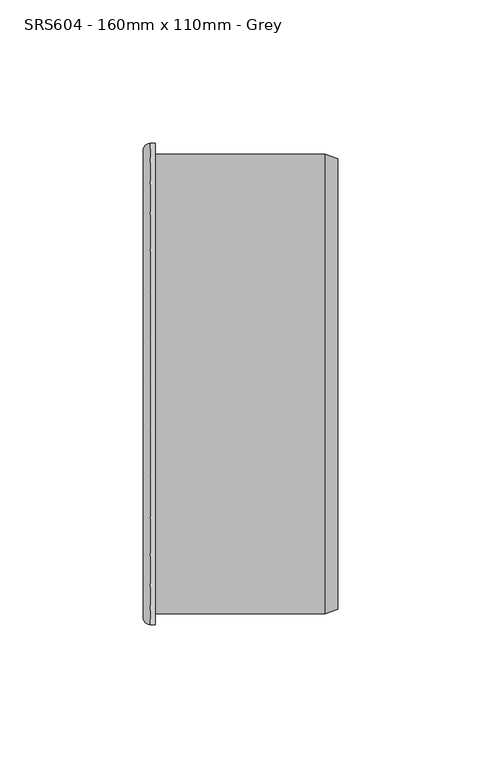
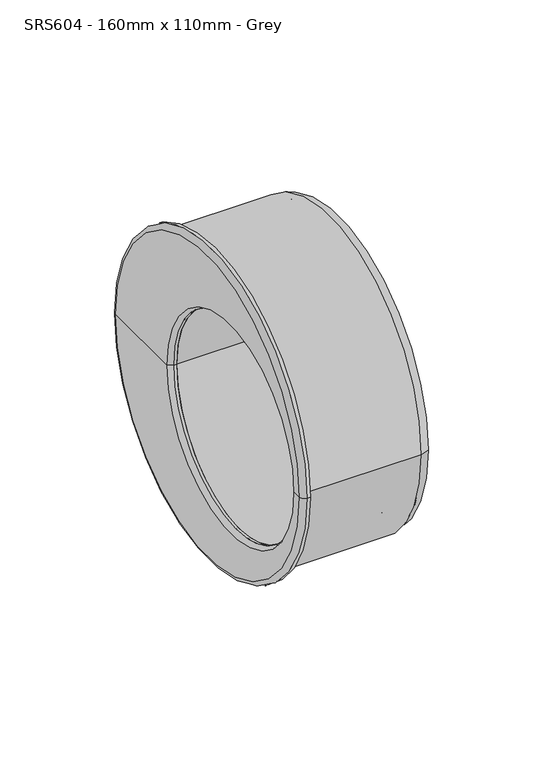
"""IFC4 building model written with IfcOpenShell, lengths in millimetres: pipe fitting geometry, MarleyPlumbingAndDrainage_PipeFitting_EccentricReducer_SRS604 : SRS604 - 160mm x 110mm - Grey."""

from ifc_helpers import new_model, si_unit, point, frame, origin, place, context, project, spatial, polyline, circle_curve, ellipse_curve, trimmed, source, transform, mapped, element, save
from ifc_brep_helpers import plane_surface, cylinder_surface, revolved_surface, advanced_brep


def srs604_160mm_x_110mm_grey_bcae88a4(model_context):
    return source(origin(), model_context, "Body", "AdvancedBrep", [
        advanced_brep(
        [(-48.7253818, 81.4690728, 0.0), (-48.7253818, -81.4690728, 0.0), (-48.7253818, -77.0932935, 0.0), (-48.7253818, 36.0932935, 0.0), (-46.2253818, 83.9690728, 0.0), (-46.2253818, -83.9690728, 0.0), (-44.4753818, 84.0, 0.0), (-44.4753818, -84.0, 0.0), (-44.4753818, 34.6943705, 0.0), (-44.4753818, -75.6943705, 0.0), (-45.7253818, 34.6943705, 0.0), (-45.7253818, -75.6943705, 0.0)],
        [
            (0, 1, circle_curve(frame((-48.7253818, 0.0, 0.0), z_axis=(-1.0, 0.0, 0.0), x_axis=(0.0, -1.0, 0.0)), 81.4690728)),
            (1, 2),
            (2, 3, circle_curve(frame((-48.7253818, -20.5, 0.0), z_axis=(1.0, 0.0, 0.0), x_axis=(0.0, 1.0, 0.0)), 56.5932935)),
            (3, 0),
            (1, 0, circle_curve(frame((-48.7253818, 0.0, 0.0), z_axis=(-1.0, 0.0, 0.0), x_axis=(0.0, -1.0, 0.0)), 81.4690728)),
            (3, 2, circle_curve(frame((-48.7253818, -20.5, 0.0), z_axis=(1.0, 0.0, 0.0), x_axis=(0.0, 1.0, 0.0)), 56.5932935)),
            (0, 4, circle_curve(frame((-46.2253818, 81.4690728, 0.0), z_axis=(0.0, 0.0, -1.0), x_axis=(1.0, 0.0, 0.0)), 2.5)),
            (4, 5, circle_curve(frame((-46.2253818, 0.0, 0.0), z_axis=(-1.0, 0.0, 0.0), x_axis=(0.0, -1.0, 0.0)), 83.9690728)),
            (5, 1, circle_curve(frame((-46.2253818, -81.4690728, 0.0), z_axis=(0.0, 0.0, -1.0), x_axis=(1.0, 0.0, 0.0)), 2.5)),
            (5, 4, circle_curve(frame((-46.2253818, 0.0, 0.0), z_axis=(-1.0, 0.0, 0.0), x_axis=(0.0, -1.0, 0.0)), 83.9690728)),
            (4, 6),
            (6, 7, circle_curve(frame((-44.4753818, 0.0, 0.0), z_axis=(-1.0, 0.0, 0.0), x_axis=(0.0, -1.0, 0.0)), 84.0)),
            (7, 5),
            (7, 6, circle_curve(frame((-44.4753818, 0.0, 0.0), z_axis=(-1.0, 0.0, 0.0), x_axis=(0.0, -1.0, 0.0)), 84.0)),
            (6, 8),
            (8, 9, circle_curve(frame((-44.4753818, -20.5, 0.0), z_axis=(-1.0, 0.0, 0.0), x_axis=(0.0, 1.0, 0.0)), 55.1943705)),
            (9, 7),
            (9, 8, circle_curve(frame((-44.4753818, -20.5, 0.0), z_axis=(-1.0, 0.0, 0.0), x_axis=(0.0, 1.0, 0.0)), 55.1943705)),
            (10, 11, circle_curve(frame((-45.7253818, -20.5, 0.0), z_axis=(-1.0, 0.0, 0.0), x_axis=(0.0, 1.0, 0.0)), 55.1943705)),
            (11, 9),
            (8, 10),
            (11, 10, circle_curve(frame((-45.7253818, -20.5, 0.0), z_axis=(-1.0, 0.0, 0.0), x_axis=(0.0, 1.0, 0.0)), 55.1943705)),
            (10, 3),
            (2, 11),
        ],
        [
            plane_surface(frame((-48.7253818, 0.0, 0.0), z_axis=(-1.0, 0.0, 0.0), x_axis=(0.0, -1.0, 0.0))),
            revolved_surface(trimmed(ellipse_curve(frame((-46.2253818, -81.4690728, 0.0), z_axis=(0.0, 0.0, 1.0), x_axis=(1.0, 0.0, 0.0)), 2.5, 2.5), [point((-48.7253818, -81.4690728, 0.0))], [point((-46.2253818, -83.9690728, 0.0))], True, "CARTESIAN"), (-63.7253818, 0.0, 0.0), (1.0, 0.0, 0.0)),
            cylinder_surface(frame((-63.7253818, 0.0, 0.0), z_axis=(1.0, 0.0, 0.0), x_axis=(0.0, -1.0, 0.0)), 84.0),
            plane_surface(frame((-44.4753818, 0.0, 0.0), z_axis=(1.0, 0.0, 0.0), x_axis=(0.0, -1.0, 0.0))),
            revolved_surface(polyline([(-45.72538179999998, 34.6943705, 0.0), (-44.47538179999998, 34.6943705, 0.0)]), (380.0794568, -20.5, 0.0), (-1.0, 0.0, 0.0)),
            revolved_surface(polyline([(-59.208004, 40.9814205, 0.0), (-45.7253818, 34.6943705, 0.0)]), (380.0794568, -20.5, 0.0), (-1.0, 0.0, 0.0)),
        ],
        [
            (0, [[1, 2, 3, 4]]),
            (0, [[5, -4, 6, -2]]),
            (1, [[-1, 7, 8, 9]]),
            (1, [[-5, -9, 10, -7]]),
            (2, [[-8, 11, 12, 13]]),
            (2, [[-10, -13, 14, -11]]),
            (3, [[-12, 15, 16, 17]]),
            (3, [[-14, -17, 18, -15]]),
            (4, [[19, 20, -16, 21]]),
            (4, [[22, -21, -18, -20]]),
            (5, [[-19, 23, -3, 24]]),
            (5, [[-22, -24, -6, -23]]),
        ],
    ),
        advanced_brep(
        [(-44.4753818, -75.3501883, 0.0), (-44.4753818, 75.3501883, 0.0), (-44.4753818, 80.1447925, 0.0), (-44.4753818, -80.1447925, 0.0), (19.0746182, -75.3501883, 0.0), (19.0746182, 75.3501883, 0.0), (19.0746182, -78.573997, 0.0), (19.0746182, 78.573997, 0.0), (14.7588928, -80.1447925, 0.0), (14.7588928, 80.1447925, 0.0)],
        [
            (0, 1, circle_curve(frame((-44.4753818, 0.0, 0.0), z_axis=(1.0, 0.0, 0.0), x_axis=(0.0, 1.0, 0.0)), 75.3501883)),
            (1, 2),
            (2, 3, circle_curve(frame((-44.4753818, 0.0, 0.0), z_axis=(-1.0, 0.0, 0.0), x_axis=(0.0, 1.0, 0.0)), 80.1447925)),
            (3, 0),
            (1, 0, circle_curve(frame((-44.4753818, 0.0, 0.0), z_axis=(1.0, 0.0, 0.0), x_axis=(0.0, 1.0, 0.0)), 75.3501883)),
            (3, 2, circle_curve(frame((-44.4753818, 0.0, 0.0), z_axis=(-1.0, 0.0, 0.0), x_axis=(0.0, 1.0, 0.0)), 80.1447925)),
            (4, 5, circle_curve(frame((19.0746182, 0.0, 0.0), z_axis=(1.0, 0.0, 0.0), x_axis=(0.0, 1.0, 0.0)), 75.3501883)),
            (5, 1),
            (0, 4),
            (5, 4, circle_curve(frame((19.0746182, 0.0, 0.0), z_axis=(1.0, 0.0, 0.0), x_axis=(0.0, 1.0, 0.0)), 75.3501883)),
            (6, 7, circle_curve(frame((19.0746182, 0.0, 0.0), z_axis=(1.0, 0.0, 0.0), x_axis=(0.0, 1.0, 0.0)), 78.573997)),
            (7, 5),
            (4, 6),
            (7, 6, circle_curve(frame((19.0746182, 0.0, 0.0), z_axis=(1.0, 0.0, 0.0), x_axis=(0.0, 1.0, 0.0)), 78.573997)),
            (8, 9, circle_curve(frame((14.7588928, 0.0, 0.0), z_axis=(1.0, 0.0, 0.0), x_axis=(0.0, 1.0, 0.0)), 80.1447925)),
            (9, 7),
            (6, 8),
            (9, 8, circle_curve(frame((14.7588928, 0.0, 0.0), z_axis=(1.0, 0.0, 0.0), x_axis=(0.0, 1.0, 0.0)), 80.1447925)),
            (2, 9),
            (8, 3),
        ],
        [
            plane_surface(frame((-44.4753818, 0.0, 0.0), z_axis=(-1.0, 0.0, 0.0), x_axis=(0.0, 1.0, 0.0))),
            revolved_surface(polyline([(-44.47538179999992, 75.3501883, 0.0), (19.07461820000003, 75.3501883, 0.0)]), (2000.0, 0.0, 0.0), (-1.0, 0.0, 0.0)),
            plane_surface(frame((19.0746182, 0.0, 0.0), z_axis=(1.0, 0.0, 0.0), x_axis=(0.0, 1.0, 0.0))),
            revolved_surface(polyline([(19.0746182, 78.573997, 0.0), (14.7588928, 80.1447925, 0.0)]), (2000.0, 0.0, 0.0), (-1.0, 0.0, 0.0)),
            cylinder_surface(frame((2000.0, 0.0, 0.0), z_axis=(-1.0, 0.0, 0.0), x_axis=(0.0, 1.0, 0.0)), 80.1447925),
        ],
        [
            (0, [[1, 2, 3, 4]]),
            (0, [[5, -4, 6, -2]]),
            (1, [[7, 8, -1, 9]]),
            (1, [[10, -9, -5, -8]]),
            (2, [[11, 12, -7, 13]]),
            (2, [[14, -13, -10, -12]]),
            (3, [[15, 16, -11, 17]]),
            (3, [[18, -17, -14, -16]]),
            (4, [[-3, 19, -15, 20]]),
            (4, [[-6, -20, -18, -19]]),
        ],
    ),
        advanced_brep(
        [(-44.4753818, -75.6943705, 0.0), (-44.4753818, 34.6943705, 0.0), (-44.4753818, 36.4385441, 0.0), (-44.4753818, -77.4385441, 0.0), (2.7746182, -75.6943705, 0.0), (2.7746182, 34.6943705, 0.0), (2.7746182, -72.3978483, 0.0), (2.7746182, 31.3978483, 0.0), (6.2746182, -72.3978483, 0.0), (6.2746182, 31.3978483, 0.0), (6.2746182, -77.4385441, 0.0), (6.2746182, 36.4385441, 0.0)],
        [
            (0, 1, circle_curve(frame((-44.4753818, -20.5, 0.0), z_axis=(1.0, 0.0, 0.0), x_axis=(0.0, 1.0, 0.0)), 55.1943705)),
            (1, 2),
            (2, 3, circle_curve(frame((-44.4753818, -20.5, 0.0), z_axis=(-1.0, 0.0, 0.0), x_axis=(0.0, 1.0, 0.0)), 56.9385441)),
            (3, 0),
            (1, 0, circle_curve(frame((-44.4753818, -20.5, 0.0), z_axis=(1.0, 0.0, 0.0), x_axis=(0.0, 1.0, 0.0)), 55.1943705)),
            (3, 2, circle_curve(frame((-44.4753818, -20.5, 0.0), z_axis=(-1.0, 0.0, 0.0), x_axis=(0.0, 1.0, 0.0)), 56.9385441)),
            (4, 5, circle_curve(frame((2.7746182, -20.5, 0.0), z_axis=(1.0, 0.0, 0.0), x_axis=(0.0, 1.0, 0.0)), 55.1943705)),
            (5, 1),
            (0, 4),
            (5, 4, circle_curve(frame((2.7746182, -20.5, 0.0), z_axis=(1.0, 0.0, 0.0), x_axis=(0.0, 1.0, 0.0)), 55.1943705)),
            (6, 7, circle_curve(frame((2.7746182, -20.5, 0.0), z_axis=(1.0, 0.0, 0.0), x_axis=(0.0, 1.0, 0.0)), 51.8978483)),
            (7, 5),
            (4, 6),
            (7, 6, circle_curve(frame((2.7746182, -20.5, 0.0), z_axis=(1.0, 0.0, 0.0), x_axis=(0.0, 1.0, 0.0)), 51.8978483)),
            (8, 9, circle_curve(frame((6.2746182, -20.5, 0.0), z_axis=(1.0, 0.0, 0.0), x_axis=(0.0, 1.0, 0.0)), 51.8978483)),
            (9, 7),
            (6, 8),
            (9, 8, circle_curve(frame((6.2746182, -20.5, 0.0), z_axis=(1.0, 0.0, 0.0), x_axis=(0.0, 1.0, 0.0)), 51.8978483)),
            (10, 11, circle_curve(frame((6.2746182, -20.5, 0.0), z_axis=(1.0, 0.0, 0.0), x_axis=(0.0, 1.0, 0.0)), 56.9385441)),
            (11, 9),
            (8, 10),
            (11, 10, circle_curve(frame((6.2746182, -20.5, 0.0), z_axis=(1.0, 0.0, 0.0), x_axis=(0.0, 1.0, 0.0)), 56.9385441)),
            (2, 11),
            (10, 3),
        ],
        [
            plane_surface(frame((-44.4753818, -20.5, 0.0), z_axis=(-1.0, 0.0, 0.0), x_axis=(0.0, 1.0, 0.0))),
            revolved_surface(polyline([(-44.47538179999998, 34.6943705, 0.0), (2.7746182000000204, 34.6943705, 0.0)]), (380.0794568, -20.5, 0.0), (-1.0, 0.0, 0.0)),
            plane_surface(frame((2.7746182, -20.5, 0.0), z_axis=(-1.0, 0.0, 0.0), x_axis=(0.0, 1.0, 0.0))),
            revolved_surface(polyline([(2.7746182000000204, 31.3978483, 0.0), (6.27461820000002, 31.3978483, 0.0)]), (380.0794568, -20.5, 0.0), (-1.0, 0.0, 0.0)),
            plane_surface(frame((6.2746182, -20.5, 0.0), z_axis=(1.0, 0.0, 0.0), x_axis=(0.0, 1.0, 0.0))),
            cylinder_surface(frame((380.0794568, -20.5, 0.0), z_axis=(-1.0, 0.0, 0.0), x_axis=(0.0, 1.0, 0.0)), 56.9385441),
        ],
        [
            (0, [[1, 2, 3, 4]]),
            (0, [[5, -4, 6, -2]]),
            (1, [[7, 8, -1, 9]]),
            (1, [[10, -9, -5, -8]]),
            (2, [[11, 12, -7, 13]]),
            (2, [[14, -13, -10, -12]]),
            (3, [[15, 16, -11, 17]]),
            (3, [[18, -17, -14, -16]]),
            (4, [[19, 20, -15, 21]]),
            (4, [[22, -21, -18, -20]]),
            (5, [[-3, 23, -19, 24]]),
            (5, [[-6, -24, -22, -23]]),
        ],
    ),
    ])


if __name__ == "__main__":
    model = new_model("IFC4")
    model_context = context("Model", 3, world=origin())
    ifc_project = project(units=[si_unit("LENGTHUNIT", "METRE", prefix="MILLI")], contexts=[model_context])
    site = spatial("IfcSite", under=ifc_project)
    building = spatial("IfcBuilding", under=site)
    placement = place(None, origin())
    srs604_160mm_x_110mm_grey_shape = srs604_160mm_x_110mm_grey_bcae88a4(model_context)
    element("IfcPipeFitting", 1, ObjectType="MarleyPlumbingAndDrainage_PipeFitting_EccentricReducer_SRS604 : SRS604 - 160mm x 110mm - Grey", at=placement, inside=building, context=model_context, shape_type="MappedRepresentation", body=[
        mapped(srs604_160mm_x_110mm_grey_shape, transform((0.0, 0.0, 0.0), x_axis=(1.0, 0.0, 0.0), y_axis=(0.0, 1.0, 0.0), z_axis=(0.0, 0.0, 1.0))),
    ])
    save(model, "model.ifc")
